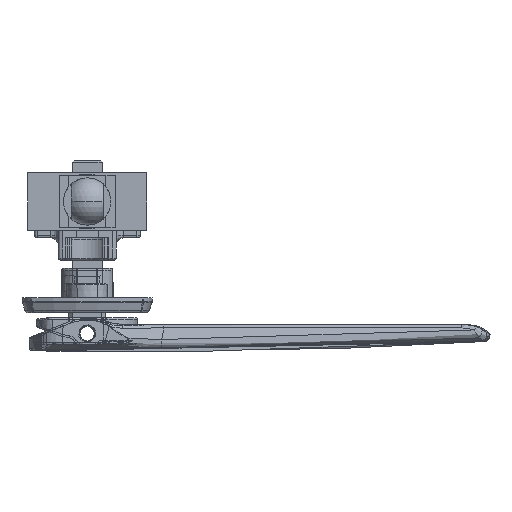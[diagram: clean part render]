
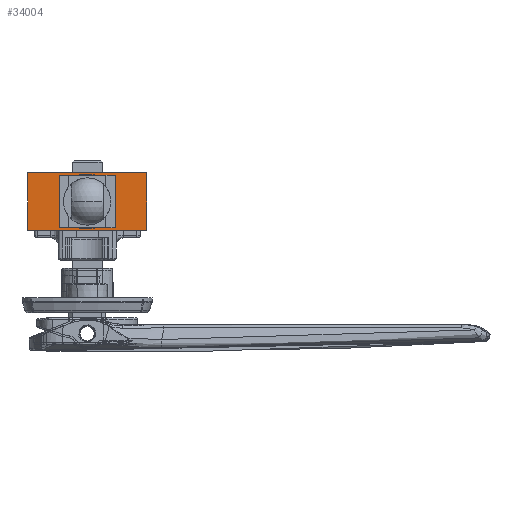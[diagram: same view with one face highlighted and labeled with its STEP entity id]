
A CAD part, front view. The second image highlights one B-rep face of the part: STEP entity #34004.
In plain terms, the highlighted planar face has unit normal (0, -1, 0).
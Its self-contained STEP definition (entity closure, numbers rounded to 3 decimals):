
#753 = DIRECTION ( 'NONE',  ( 1., 0., 0. ) ) ;
#1121 = VERTEX_POINT ( 'NONE', #28448 ) ;
#1370 = ORIENTED_EDGE ( 'NONE', *, *, #32301, .F. ) ;
#1502 = EDGE_CURVE ( 'NONE', #18686, #29672, #26491, .T. ) ;
#1719 = PLANE ( 'NONE',  #27391 ) ;
#2077 = ORIENTED_EDGE ( 'NONE', *, *, #28351, .F. ) ;
#2099 = VECTOR ( 'NONE', #12433, 1000. ) ;
#2847 = EDGE_CURVE ( 'NONE', #6570, #1121, #17010, .T. ) ;
#2918 = CARTESIAN_POINT ( 'NONE',  ( -16., -72.75, -7.75 ) ) ;
#4200 = CARTESIAN_POINT ( 'NONE',  ( -7., -72.75, -6.25 ) ) ;
#4528 = FACE_BOUND ( 'NONE', #8390, .T. ) ;
#5279 = VECTOR ( 'NONE', #16379, 1000. ) ;
#6184 = VECTOR ( 'NONE', #33070, 1000. ) ;
#6570 = VERTEX_POINT ( 'NONE', #30409 ) ;
#6912 = DIRECTION ( 'NONE',  ( 0., 0., 1. ) ) ;
#7512 = CARTESIAN_POINT ( 'NONE',  ( 16., -72.75, 7.75 ) ) ;
#8390 = EDGE_LOOP ( 'NONE', ( #24928, #1370, #13199, #2077 ) ) ;
#8781 = EDGE_CURVE ( 'NONE', #25362, #32032, #24742, .T. ) ;
#9324 = CARTESIAN_POINT ( 'NONE',  ( 16., -72.75, -7.75 ) ) ;
#9692 = VECTOR ( 'NONE', #34632, 1000. ) ;
#9759 = LINE ( 'NONE', #23059, #2099 ) ;
#9771 = VECTOR ( 'NONE', #28119, 1000. ) ;
#10342 = ORIENTED_EDGE ( 'NONE', *, *, #33250, .T. ) ;
#10904 = CARTESIAN_POINT ( 'NONE',  ( 16., -72.75, 7.75 ) ) ;
#12433 = DIRECTION ( 'NONE',  ( 1., 0., 0. ) ) ;
#12456 = CARTESIAN_POINT ( 'NONE',  ( 7., -72.75, 6.25 ) ) ;
#12506 = CARTESIAN_POINT ( 'NONE',  ( -16., -72.75, 7.75 ) ) ;
#12631 = LINE ( 'NONE', #12456, #31284 ) ;
#13199 = ORIENTED_EDGE ( 'NONE', *, *, #2847, .F. ) ;
#13728 = VERTEX_POINT ( 'NONE', #25868 ) ;
#15338 = DIRECTION ( 'NONE',  ( 0., 1., 0. ) ) ;
#15478 = CARTESIAN_POINT ( 'NONE',  ( -16., -72.75, -7.75 ) ) ;
#15501 = CARTESIAN_POINT ( 'NONE',  ( -16., -72.75, 7.75 ) ) ;
#16379 = DIRECTION ( 'NONE',  ( 1., 0., 0. ) ) ;
#16804 = EDGE_CURVE ( 'NONE', #13728, #32003, #25480, .T. ) ;
#17010 = LINE ( 'NONE', #20384, #21171 ) ;
#18686 = VERTEX_POINT ( 'NONE', #15501 ) ;
#20054 = LINE ( 'NONE', #25717, #21294 ) ;
#20384 = CARTESIAN_POINT ( 'NONE',  ( 7., -72.75, 6.25 ) ) ;
#21171 = VECTOR ( 'NONE', #6912, 1000. ) ;
#21294 = VECTOR ( 'NONE', #753, 1000. ) ;
#21337 = CARTESIAN_POINT ( 'NONE',  ( -16., -72.75, 7.75 ) ) ;
#22045 = LINE ( 'NONE', #2918, #5279 ) ;
#22766 = EDGE_CURVE ( 'NONE', #18686, #25362, #9759, .T. ) ;
#23059 = CARTESIAN_POINT ( 'NONE',  ( -16., -72.75, 7.75 ) ) ;
#23662 = ORIENTED_EDGE ( 'NONE', *, *, #1502, .T. ) ;
#23663 = DIRECTION ( 'NONE',  ( 0., 0., 1. ) ) ;
#24742 = LINE ( 'NONE', #10904, #6184 ) ;
#24928 = ORIENTED_EDGE ( 'NONE', *, *, #16804, .F. ) ;
#25362 = VERTEX_POINT ( 'NONE', #7512 ) ;
#25480 = LINE ( 'NONE', #4200, #9771 ) ;
#25717 = CARTESIAN_POINT ( 'NONE',  ( -7., -72.75, -6.25 ) ) ;
#25868 = CARTESIAN_POINT ( 'NONE',  ( -7., -72.75, 6.25 ) ) ;
#25981 = FACE_OUTER_BOUND ( 'NONE', #34587, .T. ) ;
#26491 = LINE ( 'NONE', #21337, #9692 ) ;
#27176 = ORIENTED_EDGE ( 'NONE', *, *, #8781, .F. ) ;
#27391 = AXIS2_PLACEMENT_3D ( 'NONE', #12506, #15338, #23663 ) ;
#28119 = DIRECTION ( 'NONE',  ( 0., 0., -1. ) ) ;
#28351 = EDGE_CURVE ( 'NONE', #32003, #6570, #20054, .T. ) ;
#28448 = CARTESIAN_POINT ( 'NONE',  ( 7., -72.75, 6.25 ) ) ;
#28917 = DIRECTION ( 'NONE',  ( -1., 0., 0. ) ) ;
#29672 = VERTEX_POINT ( 'NONE', #15478 ) ;
#30409 = CARTESIAN_POINT ( 'NONE',  ( 7., -72.75, -6.25 ) ) ;
#31265 = ORIENTED_EDGE ( 'NONE', *, *, #22766, .F. ) ;
#31284 = VECTOR ( 'NONE', #28917, 1000. ) ;
#32003 = VERTEX_POINT ( 'NONE', #32555 ) ;
#32032 = VERTEX_POINT ( 'NONE', #9324 ) ;
#32301 = EDGE_CURVE ( 'NONE', #1121, #13728, #12631, .T. ) ;
#32555 = CARTESIAN_POINT ( 'NONE',  ( -7., -72.75, -6.25 ) ) ;
#33070 = DIRECTION ( 'NONE',  ( 0., 0., -1. ) ) ;
#33250 = EDGE_CURVE ( 'NONE', #29672, #32032, #22045, .T. ) ;
#34004 = ADVANCED_FACE ( 'NONE', ( #4528, #25981 ), #1719, .F. ) ;
#34587 = EDGE_LOOP ( 'NONE', ( #10342, #27176, #31265, #23662 ) ) ;
#34632 = DIRECTION ( 'NONE',  ( 0., 0., -1. ) ) ;
